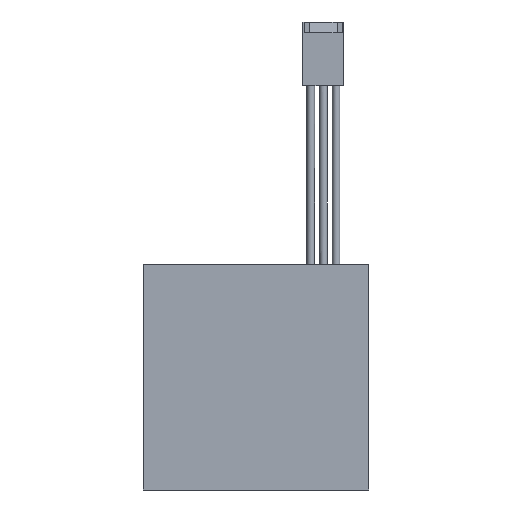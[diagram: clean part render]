
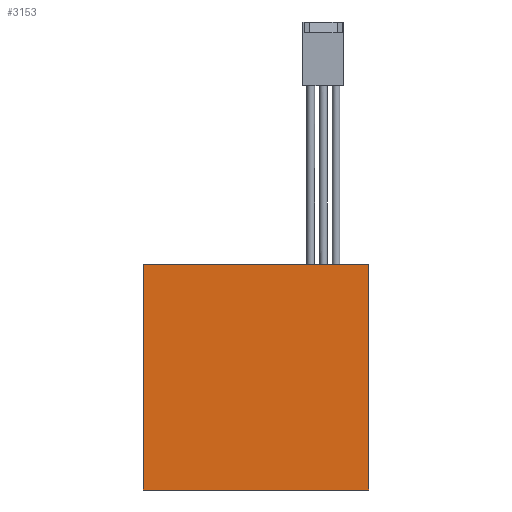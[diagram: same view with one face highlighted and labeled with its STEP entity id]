
A CAD part, front view. The second image highlights one B-rep face of the part: STEP entity #3153.
In plain terms, the highlighted planar face has unit normal (0, -1, 0).
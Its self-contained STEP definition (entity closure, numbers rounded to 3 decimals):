
#289 = EDGE_LOOP ( 'NONE', ( #12559, #7545, #2638, #644 ) ) ;
#644 = ORIENTED_EDGE ( 'NONE', *, *, #13073, .F. ) ;
#859 = VECTOR ( 'NONE', #10765, 1000. ) ;
#870 = DIRECTION ( 'NONE',  ( 0., 0., 1. ) ) ;
#1605 = EDGE_CURVE ( 'NONE', #14493, #15893, #13612, .T. ) ;
#1760 = PLANE ( 'NONE',  #16957 ) ;
#2638 = ORIENTED_EDGE ( 'NONE', *, *, #1605, .F. ) ;
#3153 = ADVANCED_FACE ( 'NONE', ( #16089 ), #1760, .T. ) ;
#3277 = CARTESIAN_POINT ( 'NONE',  ( 22.5, -1.654, -22.5 ) ) ;
#4010 = LINE ( 'NONE', #15944, #8525 ) ;
#4217 = CARTESIAN_POINT ( 'NONE',  ( 22.5, -1.654, 22.5 ) ) ;
#5369 = VECTOR ( 'NONE', #14319, 1000. ) ;
#5370 = CARTESIAN_POINT ( 'NONE',  ( 22.5, -1.654, -22.5 ) ) ;
#5759 = DIRECTION ( 'NONE',  ( -1., 0., 0. ) ) ;
#7545 = ORIENTED_EDGE ( 'NONE', *, *, #9340, .F. ) ;
#8107 = LINE ( 'NONE', #5370, #5369 ) ;
#8525 = VECTOR ( 'NONE', #9801, 1000. ) ;
#9340 = EDGE_CURVE ( 'NONE', #15893, #13224, #17559, .T. ) ;
#9605 = CARTESIAN_POINT ( 'NONE',  ( -22.5, -1.654, -22.5 ) ) ;
#9801 = DIRECTION ( 'NONE',  ( 0., 0., -1. ) ) ;
#10137 = CARTESIAN_POINT ( 'NONE',  ( 22.5, -1.654, -22.5 ) ) ;
#10765 = DIRECTION ( 'NONE',  ( 1., 0., 0. ) ) ;
#12367 = VERTEX_POINT ( 'NONE', #3277 ) ;
#12559 = ORIENTED_EDGE ( 'NONE', *, *, #15706, .F. ) ;
#12996 = DIRECTION ( 'NONE',  ( 0., -1., 0. ) ) ;
#13073 = EDGE_CURVE ( 'NONE', #12367, #14493, #8107, .T. ) ;
#13224 = VERTEX_POINT ( 'NONE', #4217 ) ;
#13612 = LINE ( 'NONE', #9605, #18179 ) ;
#13615 = CARTESIAN_POINT ( 'NONE',  ( 22.5, -1.654, 22.5 ) ) ;
#13881 = CARTESIAN_POINT ( 'NONE',  ( -22.5, -1.654, 22.5 ) ) ;
#14319 = DIRECTION ( 'NONE',  ( -1., 0., 0. ) ) ;
#14493 = VERTEX_POINT ( 'NONE', #17552 ) ;
#15706 = EDGE_CURVE ( 'NONE', #13224, #12367, #4010, .T. ) ;
#15893 = VERTEX_POINT ( 'NONE', #13881 ) ;
#15944 = CARTESIAN_POINT ( 'NONE',  ( 22.5, -1.654, -22.5 ) ) ;
#16089 = FACE_OUTER_BOUND ( 'NONE', #289, .T. ) ;
#16957 = AXIS2_PLACEMENT_3D ( 'NONE', #10137, #12996, #5759 ) ;
#17552 = CARTESIAN_POINT ( 'NONE',  ( -22.5, -1.654, -22.5 ) ) ;
#17559 = LINE ( 'NONE', #13615, #859 ) ;
#18179 = VECTOR ( 'NONE', #870, 1000. ) ;
